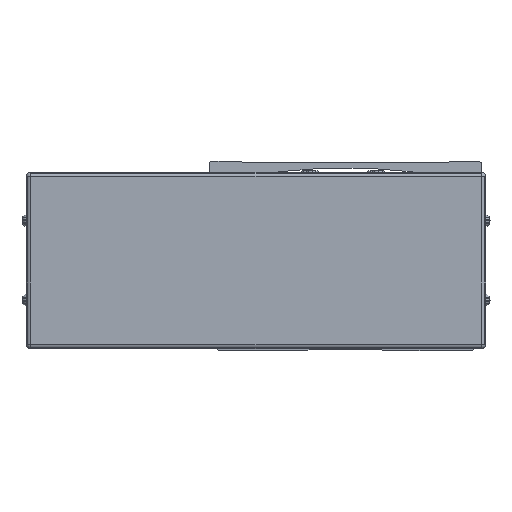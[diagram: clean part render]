
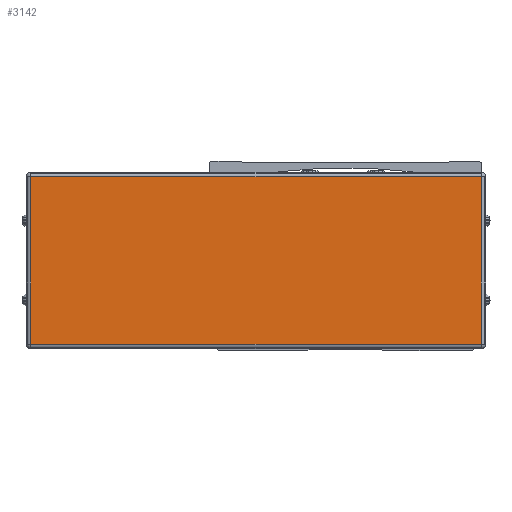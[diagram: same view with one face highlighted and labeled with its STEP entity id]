
A CAD part, front view. The second image highlights one B-rep face of the part: STEP entity #3142.
In plain terms, the highlighted planar face has unit normal (0, -1, 0).
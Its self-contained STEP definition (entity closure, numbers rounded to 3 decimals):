
#3142=ADVANCED_FACE('',(#7847),#7848,.F.);
#7847=FACE_OUTER_BOUND('',#14593,.T.);
#7848=PLANE('',#14594);
#14593=EDGE_LOOP('',(#24999,#25000,#25001,#25002));
#14594=AXIS2_PLACEMENT_3D('',#25003,#25004,#25005);
#24999=ORIENTED_EDGE('',*,*,#42021,.T.);
#25000=ORIENTED_EDGE('',*,*,#42108,.T.);
#25001=ORIENTED_EDGE('',*,*,#42130,.T.);
#25002=ORIENTED_EDGE('',*,*,#42150,.T.);
#25003=CARTESIAN_POINT('',(-340.5,-513.778,-8.));
#25004=DIRECTION('',(0.,1.0,0.));
#25005=DIRECTION('',(-1.0,0.,0.));
#42021=EDGE_CURVE('',#50198,#49717,#51099,.T.);
#42108=EDGE_CURVE('',#49717,#51158,#51237,.T.);
#42130=EDGE_CURVE('',#51158,#51131,#51271,.T.);
#42150=EDGE_CURVE('',#51131,#50198,#51304,.T.);
#49717=VERTEX_POINT('',#62192);
#50198=VERTEX_POINT('',#62866);
#51099=LINE('',#64081,#64082);
#51131=VERTEX_POINT('',#64125);
#51158=VERTEX_POINT('',#64161);
#51237=LINE('',#64277,#64278);
#51271=LINE('',#64324,#64325);
#51304=LINE('',#64371,#64372);
#62192=CARTESIAN_POINT('',(-442.7,-513.778,-46.));
#62866=CARTESIAN_POINT('',(-442.7,-513.778,30.));
#64081=CARTESIAN_POINT('',(-442.7,-513.778,-8.));
#64082=VECTOR('',#77076,10.0);
#64125=CARTESIAN_POINT('',(-238.3,-513.778,30.));
#64161=CARTESIAN_POINT('',(-238.3,-513.778,-46.));
#64277=CARTESIAN_POINT('',(-340.5,-513.778,-46.));
#64278=VECTOR('',#77172,10.0);
#64324=CARTESIAN_POINT('',(-238.3,-513.778,-8.));
#64325=VECTOR('',#77194,10.0);
#64371=CARTESIAN_POINT('',(-340.5,-513.778,30.));
#64372=VECTOR('',#77211,10.0);
#77076=DIRECTION('',(0.0,0.,-1.0));
#77172=DIRECTION('',(1.0,0.,0.));
#77194=DIRECTION('',(0.0,0.,1.0));
#77211=DIRECTION('',(-1.0,0.,0.));
